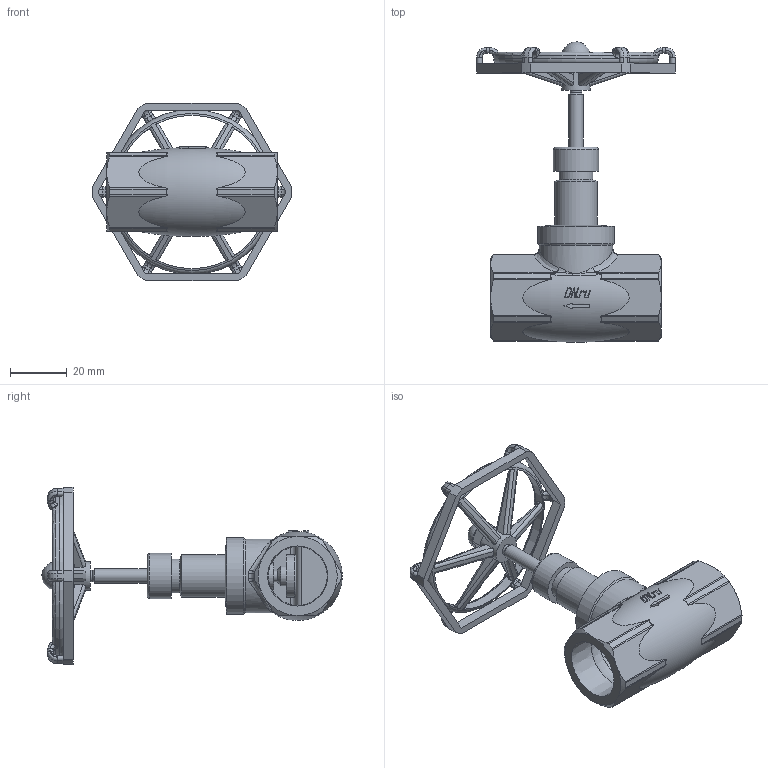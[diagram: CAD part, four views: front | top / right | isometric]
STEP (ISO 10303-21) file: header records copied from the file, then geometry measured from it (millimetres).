
FILE_DESCRIPTION(('STEP AP242'), '1');
FILE_NAME('Äó15', '', ('UNSPECIFIED'), ('UNSPECIFIED'), 'C3D Converter', 'C3D Toolkit', '');
FILE_SCHEMA(('AP242_MANAGED_MODEL_BASED_3D_ENGINEERING_MIM_LF { 1 0 10303 442 1 1 4 }'));
Length unit declared in the file: millimetre
Products named in the file (1): VSO3131M-1W-T-S
Bounding box: 70 x 105.65 x 62.35 mm (x, y, z)
Volume: 31074.9 mm3; surface area: 25356.8 mm2
Topology: 1 solids, 2 shells, 503 faces, 1312 edges, 810 vertices
Faces by surface type: plane 183, bspline 101, cylinder 88, extrusion 57, torus 43, cone 28, revolution 2, sphere 1
Full cylindrical faces by diameter (mm): 4 x1, 4.016 x1, 5 x2, 7 x1, 9.263 x2, 10 x1, 10.119 x1, 11.894 x1, 13.528 x1, 14.949 x1, 15 x1, 15.894 x1, 22 x1, 26 x1, 27 x1, 58 x1
Entity records: 30467 total; most frequent: CARTESIAN_POINT 16938, ORIENTED_EDGE 2538, DIRECTION 1755, EDGE_CURVE 1269, VERTEX_POINT 809, AXIS2_PLACEMENT_3D 671, B_SPLINE_CURVE_WITH_KNOTS 637, EDGE_LOOP 570
